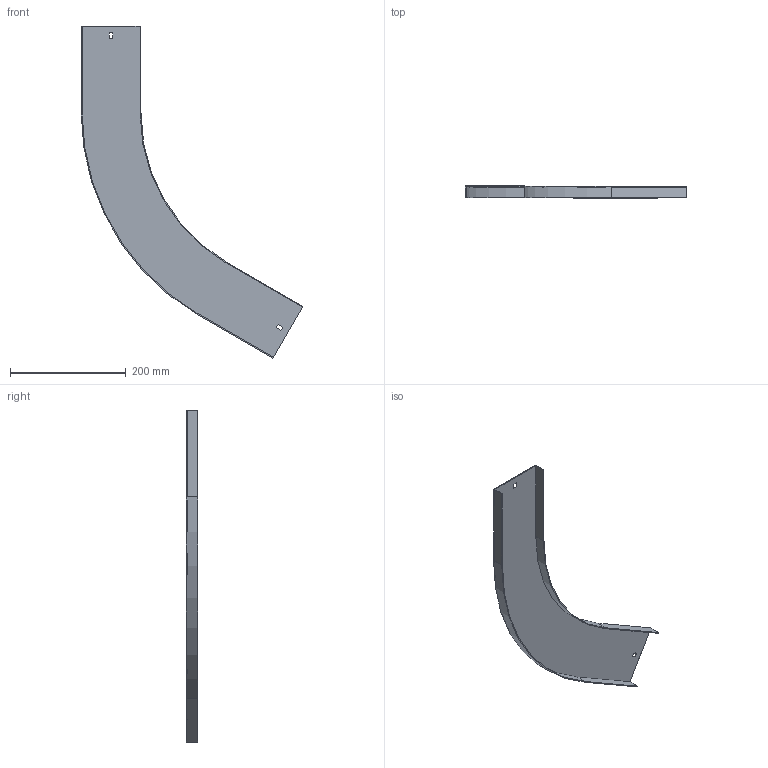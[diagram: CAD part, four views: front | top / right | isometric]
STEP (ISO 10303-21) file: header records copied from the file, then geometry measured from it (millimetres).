
FILE_DESCRIPTION (( 'STEP AP214' ), '1' );
FILE_NAME ('A2_13N3R100.step', '2025-02-21T10:52:02', ( '' ), ( '' ), 'SwSTEP 2.0', 'SolidWorks 2023', '' );
FILE_SCHEMA (( 'AUTOMOTIVE_DESIGN' ));
Length unit declared in the file: millimetre
Products named in the file (1): A2_13N3R100
Bounding box: 382.15 x 20 x 572.71 mm (x, y, z)
Volume: 139793.5 mm3; surface area: 188903.9 mm2
Topology: 1 solids, 1 shells, 26 faces, 72 edges, 48 vertices
Faces by surface type: plane 22, cylinder 4
Entity records: 855 total; most frequent: CARTESIAN_POINT 147, ORIENTED_EDGE 144, DIRECTION 134, EDGE_CURVE 72, LINE 64, VECTOR 64, VERTEX_POINT 48, AXIS2_PLACEMENT_3D 35
